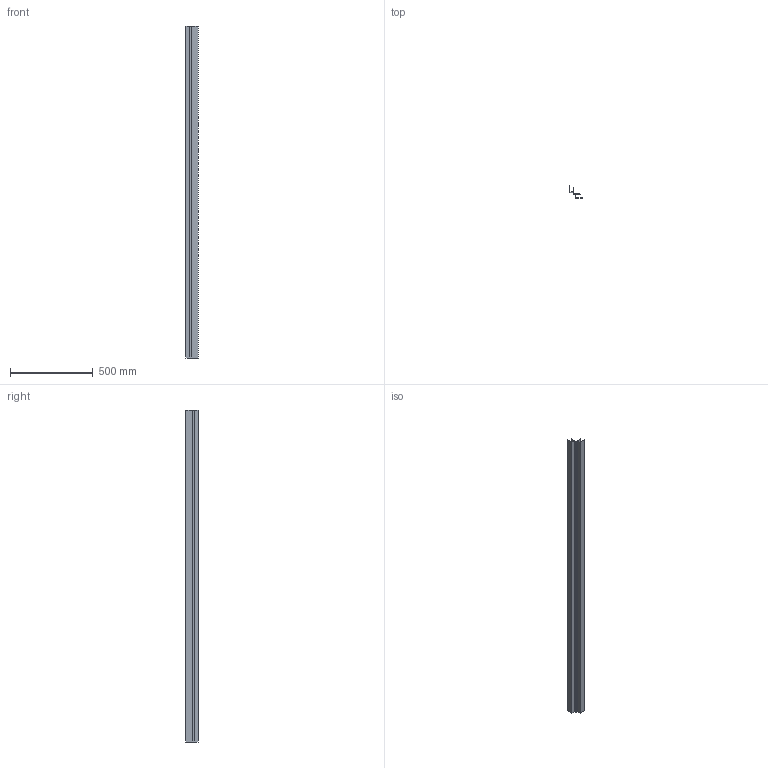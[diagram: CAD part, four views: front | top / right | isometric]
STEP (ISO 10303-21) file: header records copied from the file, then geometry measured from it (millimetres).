
FILE_DESCRIPTION (( 'STEP AP203' ), '1' );
FILE_NAME ('M22E.STEP', '2018-06-19T01:07:12', ( 'Michael Moliner' ), ( '' ), 'SwSTEP 2.0', 'SolidWorks 2018', '' );
FILE_SCHEMA (( 'CONFIG_CONTROL_DESIGN' ));
Length unit declared in the file: inch
Products named in the file (2): M22E
Bounding box: 73.53 x 73.53 x 2000 mm (x, y, z)
Volume: 250307.9 mm3; surface area: 987746.6 mm2
Topology: 1 solids, 1 shells, 30 faces, 84 edges, 56 vertices
Faces by surface type: plane 20, cylinder 10
Entity records: 1125 total; most frequent: CARTESIAN_POINT 172, ORIENTED_EDGE 168, DIRECTION 168, EDGE_CURVE 84, VECTOR 64, LINE 64, VERTEX_POINT 56, AXIS2_PLACEMENT_3D 52
